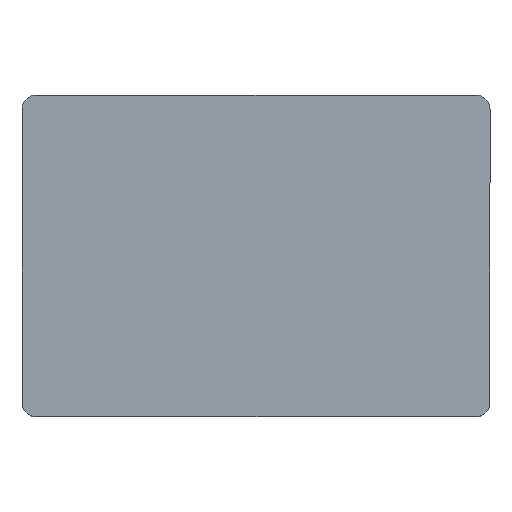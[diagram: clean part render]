
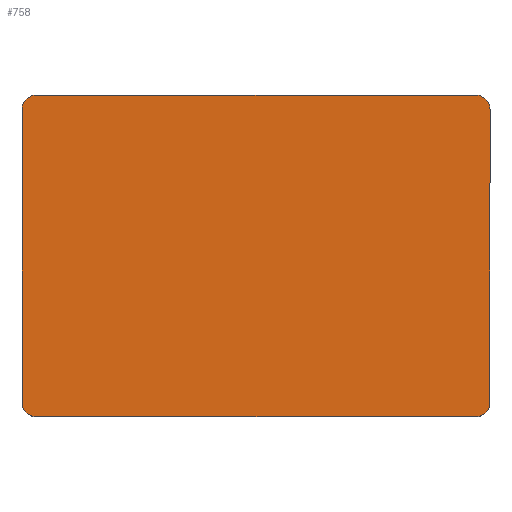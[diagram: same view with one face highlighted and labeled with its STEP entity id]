
A CAD part, top view. The second image highlights one B-rep face of the part: STEP entity #758.
In plain terms, the highlighted planar face has unit normal (0, 0, 1).
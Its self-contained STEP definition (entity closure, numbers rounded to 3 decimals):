
#46 = DIRECTION ( 'NONE',  ( 0., 0., 1. ) ) ;
#55 = EDGE_CURVE ( 'NONE', #152, #719, #3536, .T. ) ;
#76 = ORIENTED_EDGE ( 'NONE', *, *, #1802, .F. ) ;
#114 = ORIENTED_EDGE ( 'NONE', *, *, #1795, .T. ) ;
#133 = DIRECTION ( 'NONE',  ( 0., 0., -1. ) ) ;
#136 = CARTESIAN_POINT ( 'NONE',  ( 115.6, 91.5, 5. ) ) ;
#139 = EDGE_CURVE ( 'NONE', #1071, #1121, #3629, .T. ) ;
#152 = VERTEX_POINT ( 'NONE', #1772 ) ;
#192 = AXIS2_PLACEMENT_3D ( 'NONE', #1838, #1582, #735 ) ;
#265 = DIRECTION ( 'NONE',  ( 1., 0., 0. ) ) ;
#352 = EDGE_CURVE ( 'NONE', #1071, #2895, #2644, .T. ) ;
#494 = AXIS2_PLACEMENT_3D ( 'NONE', #3171, #46, #614 ) ;
#502 = CARTESIAN_POINT ( 'NONE',  ( 117.6, 89.5, 5. ) ) ;
#531 = AXIS2_PLACEMENT_3D ( 'NONE', #136, #1392, #2244 ) ;
#560 = CARTESIAN_POINT ( 'NONE',  ( 53.6, 89.5, 5. ) ) ;
#614 = DIRECTION ( 'NONE',  ( -1., 0., 0. ) ) ;
#677 = CARTESIAN_POINT ( 'NONE',  ( 53.6, 133.5, 5. ) ) ;
#690 = ORIENTED_EDGE ( 'NONE', *, *, #3489, .T. ) ;
#719 = VERTEX_POINT ( 'NONE', #2313 ) ;
#735 = DIRECTION ( 'NONE',  ( -1., 0., 0. ) ) ;
#758 = ADVANCED_FACE ( 'NONE', ( #2228 ), #2970, .F. ) ;
#792 = DIRECTION ( 'NONE',  ( -1., 0., 0. ) ) ;
#803 = VERTEX_POINT ( 'NONE', #2091 ) ;
#852 = CARTESIAN_POINT ( 'NONE',  ( 53.6, 91.5, 5. ) ) ;
#901 = VECTOR ( 'NONE', #1890, 1000. ) ;
#983 = ORIENTED_EDGE ( 'NONE', *, *, #352, .T. ) ;
#1009 = LINE ( 'NONE', #1931, #2902 ) ;
#1059 = EDGE_CURVE ( 'NONE', #1766, #2895, #3459, .T. ) ;
#1071 = VERTEX_POINT ( 'NONE', #852 ) ;
#1078 = CARTESIAN_POINT ( 'NONE',  ( 115.6, 89.5, 5. ) ) ;
#1121 = VERTEX_POINT ( 'NONE', #2263 ) ;
#1154 = ORIENTED_EDGE ( 'NONE', *, *, #55, .F. ) ;
#1392 = DIRECTION ( 'NONE',  ( 0., 0., 1. ) ) ;
#1523 = CARTESIAN_POINT ( 'NONE',  ( 55.6, 133.5, 5. ) ) ;
#1582 = DIRECTION ( 'NONE',  ( 0., 0., 1. ) ) ;
#1584 = CIRCLE ( 'NONE', #531, 2. ) ;
#1607 = CARTESIAN_POINT ( 'NONE',  ( 115.6, 131.5, 5. ) ) ;
#1766 = VERTEX_POINT ( 'NONE', #1078 ) ;
#1772 = CARTESIAN_POINT ( 'NONE',  ( 117.6, 131.5, 5. ) ) ;
#1795 = EDGE_CURVE ( 'NONE', #152, #803, #1924, .T. ) ;
#1802 = EDGE_CURVE ( 'NONE', #2197, #803, #1009, .T. ) ;
#1838 = CARTESIAN_POINT ( 'NONE',  ( 55.6, 91.5, 5. ) ) ;
#1875 = ORIENTED_EDGE ( 'NONE', *, *, #2078, .T. ) ;
#1884 = DIRECTION ( 'NONE',  ( 0., 0., 1. ) ) ;
#1890 = DIRECTION ( 'NONE',  ( 0., -1., 0. ) ) ;
#1924 = CIRCLE ( 'NONE', #3372, 2. ) ;
#1931 = CARTESIAN_POINT ( 'NONE',  ( 53.6, 133.5, 5. ) ) ;
#1986 = ORIENTED_EDGE ( 'NONE', *, *, #1059, .F. ) ;
#2076 = ORIENTED_EDGE ( 'NONE', *, *, #139, .F. ) ;
#2078 = EDGE_CURVE ( 'NONE', #2197, #1121, #3126, .T. ) ;
#2091 = CARTESIAN_POINT ( 'NONE',  ( 115.6, 133.5, 5. ) ) ;
#2177 = CARTESIAN_POINT ( 'NONE',  ( 55.6, 89.5, 5. ) ) ;
#2197 = VERTEX_POINT ( 'NONE', #1523 ) ;
#2212 = CARTESIAN_POINT ( 'NONE',  ( 117.6, 133.5, 5. ) ) ;
#2228 = FACE_OUTER_BOUND ( 'NONE', #2506, .T. ) ;
#2244 = DIRECTION ( 'NONE',  ( -1., 0., 0. ) ) ;
#2263 = CARTESIAN_POINT ( 'NONE',  ( 53.6, 131.5, 5. ) ) ;
#2313 = CARTESIAN_POINT ( 'NONE',  ( 117.6, 91.5, 5. ) ) ;
#2506 = EDGE_LOOP ( 'NONE', ( #1986, #690, #1154, #114, #76, #1875, #2076, #983 ) ) ;
#2514 = DIRECTION ( 'NONE',  ( 0., 1., 0. ) ) ;
#2524 = VECTOR ( 'NONE', #2514, 1000. ) ;
#2535 = VECTOR ( 'NONE', #792, 1000. ) ;
#2644 = CIRCLE ( 'NONE', #192, 2. ) ;
#2895 = VERTEX_POINT ( 'NONE', #2177 ) ;
#2902 = VECTOR ( 'NONE', #265, 1000. ) ;
#2947 = DIRECTION ( 'NONE',  ( -1., 0., 0. ) ) ;
#2970 = PLANE ( 'NONE',  #3097 ) ;
#3097 = AXIS2_PLACEMENT_3D ( 'NONE', #677, #133, #2947 ) ;
#3126 = CIRCLE ( 'NONE', #494, 2. ) ;
#3171 = CARTESIAN_POINT ( 'NONE',  ( 55.6, 131.5, 5. ) ) ;
#3345 = DIRECTION ( 'NONE',  ( -1., 0., 0. ) ) ;
#3372 = AXIS2_PLACEMENT_3D ( 'NONE', #1607, #1884, #3345 ) ;
#3459 = LINE ( 'NONE', #502, #2535 ) ;
#3489 = EDGE_CURVE ( 'NONE', #1766, #719, #1584, .T. ) ;
#3536 = LINE ( 'NONE', #2212, #901 ) ;
#3629 = LINE ( 'NONE', #560, #2524 ) ;
